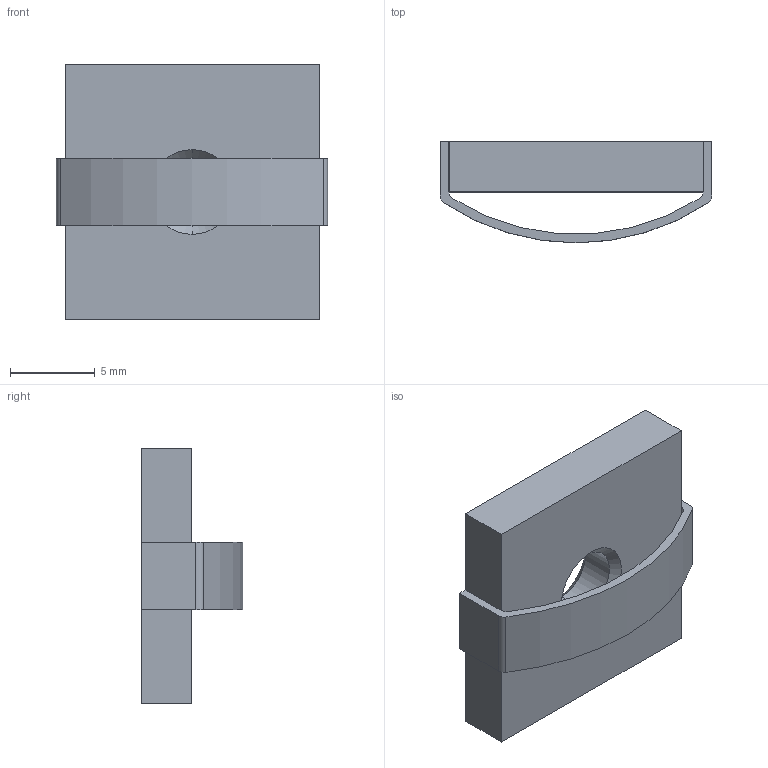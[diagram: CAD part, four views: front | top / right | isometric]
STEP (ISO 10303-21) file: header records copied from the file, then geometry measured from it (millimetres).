
FILE_DESCRIPTION (( 'STEP AP214' ), '1' );
FILE_NAME ('SNSD.30.51.25. Ñóõàðü ïàçîâûé ñ ïðóæèííîé ïëàñòèíîé M5, ïàç 8(C77).STEP', '2014-11-29T15:21:18', ( 'Dmitriy' ), ( '' ), 'SwSTEP 2.0', 'SolidWorks 2014', '' );
FILE_SCHEMA (( 'AUTOMOTIVE_DESIGN' ));
Length unit declared in the file: millimetre
Products named in the file (3): SNSD.30.51.25. Ñóõàðü ïàçîâûé ñ ïðóæèííîé ïëàñòèíîé M5, ïàç 8(C77); SNSD.30.51.19. Ñóõàðü ïàçîâûé ñ ïðóæèííîé ïëàñòèíîé M6, ïàç 8(B79)C77_00; SNSD.30.51.19. ﾏ跖浯(B79)C77_00
Assembly tree (2 placements, depth 2):
  SNSD.30.51.25. Ñóõàðü ïàçîâûé ñ ïðóæèííîé ïëàñòèíîé M5, ïàç 8(C77)
    SNSD.30.51.19. Ñóõàðü ïàçîâûé ñ ïðóæèííîé ïëàñòèíîé M6, ïàç 8(B79)C77_00
    SNSD.30.51.19. ﾏ跖浯(B79)C77_00
Bounding box: 16 x 6 x 15 mm (x, y, z)
Volume: 680.3 mm3; surface area: 847.9 mm2
Topology: 2 solids, 2 shells, 26 faces, 62 edges, 40 vertices
Faces by surface type: plane 14, cylinder 8, cone 4
Entity records: 890 total; most frequent: DIRECTION 144, CARTESIAN_POINT 133, ORIENTED_EDGE 124, EDGE_CURVE 62, AXIS2_PLACEMENT_3D 51, VECTOR 42, LINE 42, VERTEX_POINT 40
